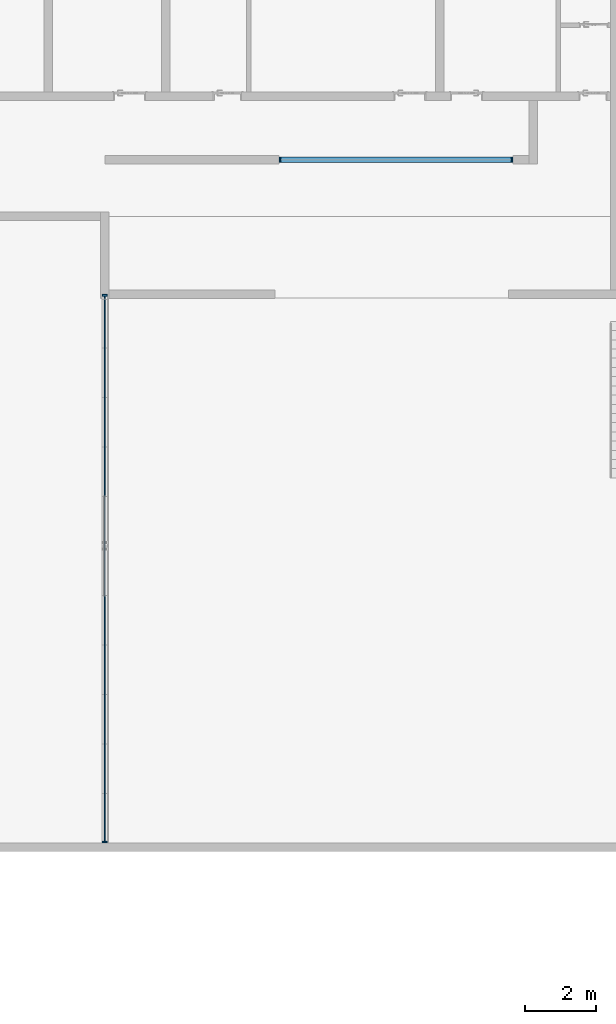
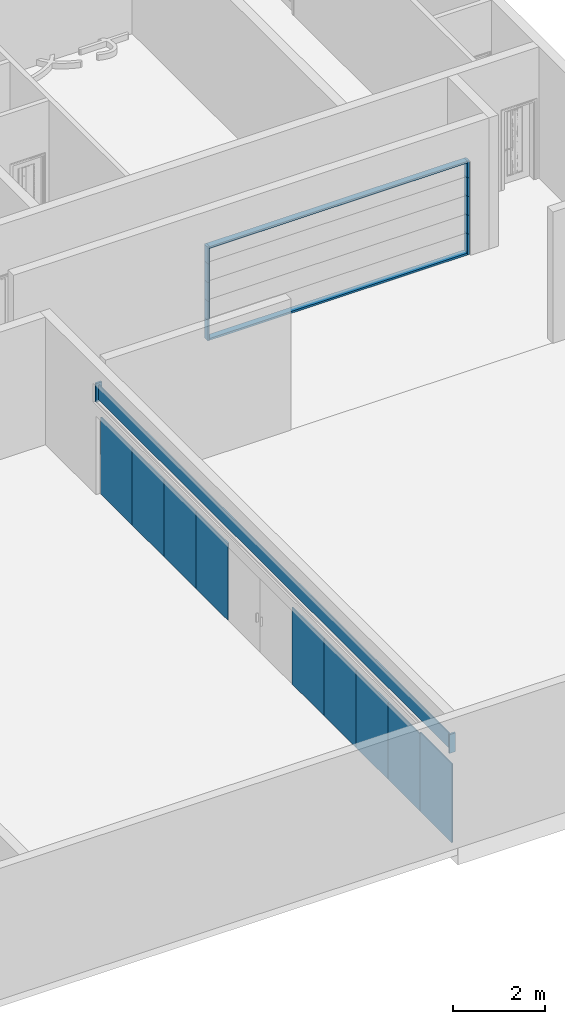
# One storey, part 3 of 24: 14 members, 10 plates, 3 elements without a shape of their own.
"""IFC2X3 building model written with IfcOpenShell, lengths in millimetres."""

from ifc_helpers import new_model, entity, si_unit, converted_unit, derived_unit, direction, frame, origin, origin_2d_with_axis, place, context, subcontext, project, spatial, rectangle, extrude, source, transform, mapped, material, layer, layer_set, layer_usage, type_object, type_shapes, element, aggregate, save


model = new_model("IFC2X3")

# Units and contexts
model_context = context("Model", 3, precision=0.01, world=origin(), true_north=direction((6.12303176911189e-17, 1.0)))
body_context = subcontext(model_context, "Body", "Model", "MODEL_VIEW")
ifc_project = project(units=[si_unit("LENGTHUNIT", "METRE", prefix="MILLI"), si_unit("AREAUNIT", "SQUARE_METRE"), si_unit("VOLUMEUNIT", "CUBIC_METRE"), converted_unit("PLANEANGLEUNIT", "DEGREE", entity("IfcRatioMeasure", 0.0174532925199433), si_unit("PLANEANGLEUNIT", "RADIAN"), dimensions=[0, 0, 0, 0, 0, 0, 0]), si_unit("MASSUNIT", "GRAM", prefix="KILO"), derived_unit("MASSDENSITYUNIT", [(si_unit("MASSUNIT", "GRAM", prefix="KILO"), 1), (si_unit("LENGTHUNIT", "METRE"), -3)]), si_unit("TIMEUNIT", "SECOND"), si_unit("FREQUENCYUNIT", "HERTZ"), si_unit("THERMODYNAMICTEMPERATUREUNIT", "DEGREE_CELSIUS"), derived_unit("THERMALTRANSMITTANCEUNIT", [(si_unit("MASSUNIT", "GRAM", prefix="KILO"), 1), (si_unit("THERMODYNAMICTEMPERATUREUNIT", "KELVIN"), -1), (si_unit("TIMEUNIT", "SECOND"), -3)]), derived_unit("VOLUMETRICFLOWRATEUNIT", [(si_unit("LENGTHUNIT", "METRE"), 3), (si_unit("TIMEUNIT", "SECOND"), -1)]), si_unit("ELECTRICCURRENTUNIT", "AMPERE"), si_unit("ELECTRICVOLTAGEUNIT", "VOLT"), si_unit("POWERUNIT", "WATT"), si_unit("FORCEUNIT", "NEWTON", prefix="KILO"), si_unit("ILLUMINANCEUNIT", "LUX"), si_unit("LUMINOUSFLUXUNIT", "LUMEN"), si_unit("LUMINOUSINTENSITYUNIT", "CANDELA"), derived_unit("USERDEFINED", [(si_unit("MASSUNIT", "GRAM", prefix="KILO"), -1), (si_unit("LENGTHUNIT", "METRE"), -2), (si_unit("TIMEUNIT", "SECOND"), 3), (si_unit("LUMINOUSFLUXUNIT", "LUMEN"), 1)]), derived_unit("LINEARVELOCITYUNIT", [(si_unit("LENGTHUNIT", "METRE"), 1), (si_unit("TIMEUNIT", "SECOND"), -1)]), si_unit("PRESSUREUNIT", "PASCAL"), derived_unit("USERDEFINED", [(si_unit("LENGTHUNIT", "METRE"), -2), (si_unit("MASSUNIT", "GRAM", prefix="KILO"), 1), (si_unit("TIMEUNIT", "SECOND"), -2)])], contexts=[model_context])

# Site, building, storey
site_placement = place(None, origin())
site = spatial("IfcSite", under=ifc_project, at=site_placement, Name="表面", CompositionType="ELEMENT")
building_placement = place(site_placement, origin())
building = spatial("IfcBuilding", under=site, at=building_placement, CompositionType="ELEMENT")
storey_placement = place(building_placement, frame((0.0, 0.0, -3500.0)))
storey = spatial("IfcBuildingStorey", under=building, at=storey_placement, Name="-1F", CompositionType="ELEMENT", Elevation=-3500.0)

# Curtain wall, members
curtain_wall_type_1 = type_object("IfcCurtainWallType", Name="幕墙:幕墙 1", PredefinedType="NOTDEFINED")
curtain_wall_1_placement = place(storey_placement, frame((0.0, 0.0, 3500.0)))
curtain_wall_1 = element("IfcCurtainWall", 1, at=curtain_wall_1_placement, inside=storey, type_object=curtain_wall_type_1, Name="幕墙:幕墙 1", ObjectType="幕墙:幕墙 1")
ifc_material_1 = material(Name="金属 - 铝")
member_type_1 = type_object("IfcMemberType", Name="50 x 150mm", PredefinedType="MEMBER")
shared_shape_1 = source(origin(), body_context, "Body", "SweptSolid", [
    extrude(rectangle(XDim=150.0, YDim=50.0, at=origin_2d_with_axis()), frame((-25.0, 0.0, -550.0), z_axis=(0.0, 0.0, 1.0), x_axis=(0.0, -1.0, 0.0)), (0.0, 0.0, 1.0), 550.0),
])
type_shapes(member_type_1, [shared_shape_1])
member_1_placement = place(storey_placement, frame((7889.75008735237, -10507.8459129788, 0.0), z_axis=(0.0, 0.0, -1.0), x_axis=(1.0, 0.0, 0.0)))
member_1 = element("IfcMember", 2, at=member_1_placement, type_object=member_type_1, material=ifc_material_1, Name="矩形竖梃:50 x 150mm", ObjectType="50 x 150mm", context=body_context, shape_type="MappedRepresentation", body=[
    mapped(shared_shape_1, transform((0.0, 0.0, 0.0), scale=1.0)),
])
member_type_2 = type_object("IfcMemberType", Name="50 x 150mm", PredefinedType="MEMBER")
shared_shape_2 = source(origin(), body_context, "Body", "SweptSolid", [
    extrude(rectangle(XDim=150.0, YDim=50.0, at=origin_2d_with_axis()), frame((-25.0, 0.0, -450.0), z_axis=(0.0, 0.0, 1.0), x_axis=(0.0, -1.0, 0.0)), (0.0, 0.0, 1.0), 450.000000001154),
])
type_shapes(member_type_2, [shared_shape_2])
member_2_placement = place(storey_placement, frame((1289.75008735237, -10507.8459129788, 2500.0), z_axis=(0.0, 0.0, 1.0), x_axis=(-1.0, 0.0, 0.0)))
member_2 = element("IfcMember", 3, at=member_2_placement, type_object=member_type_2, material=ifc_material_1, Name="矩形竖梃:50 x 150mm", ObjectType="50 x 150mm", context=body_context, shape_type="MappedRepresentation", body=[
    mapped(shared_shape_2, transform((0.0, 0.0, 0.0), scale=1.0)),
])
member_type_3 = type_object("IfcMemberType", Name="50 x 150mm", PredefinedType="MEMBER")
shared_shape_3 = source(origin(), body_context, "Body", "SweptSolid", [
    extrude(rectangle(XDim=150.0, YDim=50.0, at=origin_2d_with_axis()), frame((-25.0, 0.0, -500.0), z_axis=(0.0, 0.0, 1.0), x_axis=(0.0, -1.0, 0.0)), (0.0, 0.0, 1.0), 500.0),
])
type_shapes(member_type_3, [shared_shape_3])
member_3_placement = place(storey_placement, frame((7889.75008735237, -10507.8459129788, 550.0), z_axis=(0.0, 0.0, -1.0), x_axis=(1.0, 0.0, 0.0)))
member_3 = element("IfcMember", 4, at=member_3_placement, type_object=member_type_3, material=ifc_material_1, Name="矩形竖梃:50 x 150mm", ObjectType="50 x 150mm", context=body_context, shape_type="MappedRepresentation", body=[
    mapped(shared_shape_3, transform((0.0, 0.0, 0.0), scale=1.0)),
])
member_4_placement = place(storey_placement, frame((7889.75008735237, -10507.8459129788, 1050.0), z_axis=(0.0, 0.0, -1.0), x_axis=(1.0, 0.0, 0.0)))
member_4 = element("IfcMember", 5, at=member_4_placement, type_object=member_type_3, material=ifc_material_1, Name="矩形竖梃:50 x 150mm", ObjectType="50 x 150mm", context=body_context, shape_type="MappedRepresentation", body=[
    mapped(shared_shape_3, transform((0.0, 0.0, 0.0), scale=1.0)),
])
member_5_placement = place(storey_placement, frame((7889.75008735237, -10507.8459129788, 1550.0), z_axis=(0.0, 0.0, -1.0), x_axis=(1.0, 0.0, 0.0)))
member_5 = element("IfcMember", 6, at=member_5_placement, type_object=member_type_3, material=ifc_material_1, Name="矩形竖梃:50 x 150mm", ObjectType="50 x 150mm", context=body_context, shape_type="MappedRepresentation", body=[
    mapped(shared_shape_3, transform((0.0, 0.0, 0.0), scale=1.0)),
])
member_type_4 = type_object("IfcMemberType", Name="50 x 150mm", PredefinedType="MEMBER")
shared_shape_4 = source(origin(), body_context, "Body", "SweptSolid", [
    extrude(rectangle(XDim=150.0, YDim=50.0, at=origin_2d_with_axis()), frame((-25.0, 0.0, -550.0), z_axis=(0.0, 0.0, 1.0), x_axis=(0.0, -1.0, 0.0)), (0.0, 0.0, 1.0), 550.0),
])
type_shapes(member_type_4, [shared_shape_4])
member_6_placement = place(storey_placement, frame((1289.75008735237, -10507.8459129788, 550.0), z_axis=(0.0, 0.0, 1.0), x_axis=(-1.0, 0.0, 0.0)))
member_6 = element("IfcMember", 7, at=member_6_placement, type_object=member_type_4, material=ifc_material_1, Name="矩形竖梃:50 x 150mm", ObjectType="50 x 150mm", context=body_context, shape_type="MappedRepresentation", body=[
    mapped(shared_shape_4, transform((0.0, 0.0, 0.0), scale=1.0)),
])
member_type_5 = type_object("IfcMemberType", Name="50 x 150mm", PredefinedType="MEMBER")
shared_shape_5 = source(origin(), body_context, "Body", "SweptSolid", [
    extrude(rectangle(XDim=150.0, YDim=50.0, at=origin_2d_with_axis()), frame((-25.0, 0.0, -500.0), z_axis=(0.0, 0.0, 1.0), x_axis=(0.0, -1.0, 0.0)), (0.0, 0.0, 1.0), 500.0),
])
type_shapes(member_type_5, [shared_shape_5])
member_7_placement = place(storey_placement, frame((1289.75008735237, -10507.8459129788, 1050.0), z_axis=(0.0, 0.0, 1.0), x_axis=(-1.0, 0.0, 0.0)))
member_7 = element("IfcMember", 8, at=member_7_placement, type_object=member_type_5, material=ifc_material_1, Name="矩形竖梃:50 x 150mm", ObjectType="50 x 150mm", context=body_context, shape_type="MappedRepresentation", body=[
    mapped(shared_shape_5, transform((0.0, 0.0, 0.0), scale=1.0)),
])
member_8_placement = place(storey_placement, frame((1289.75008735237, -10507.8459129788, 1550.0), z_axis=(0.0, 0.0, 1.0), x_axis=(-1.0, 0.0, 0.0)))
member_8 = element("IfcMember", 9, at=member_8_placement, type_object=member_type_5, material=ifc_material_1, Name="矩形竖梃:50 x 150mm", ObjectType="50 x 150mm", context=body_context, shape_type="MappedRepresentation", body=[
    mapped(shared_shape_5, transform((0.0, 0.0, 0.0), scale=1.0)),
])
member_9_placement = place(storey_placement, frame((1289.75008735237, -10507.8459129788, 2050.0), z_axis=(0.0, 0.0, 1.0), x_axis=(-1.0, 0.0, 0.0)))
member_9 = element("IfcMember", 10, at=member_9_placement, type_object=member_type_5, material=ifc_material_1, Name="矩形竖梃:50 x 150mm", ObjectType="50 x 150mm", context=body_context, shape_type="MappedRepresentation", body=[
    mapped(shared_shape_5, transform((0.0, 0.0, 0.0), scale=1.0)),
])
member_type_6 = type_object("IfcMemberType", Name="50 x 150mm", PredefinedType="MEMBER")
shared_shape_6 = source(origin(), body_context, "Body", "SweptSolid", [
    extrude(rectangle(XDim=150.0, YDim=50.0, at=origin_2d_with_axis()), frame((-25.0, 0.0, -450.0), z_axis=(0.0, 0.0, 1.0), x_axis=(0.0, -1.0, 0.0)), (0.0, 0.0, 1.0), 450.000000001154),
])
type_shapes(member_type_6, [shared_shape_6])
member_10_placement = place(storey_placement, frame((7889.75008735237, -10507.8459129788, 2050.0), z_axis=(0.0, 0.0, -1.0), x_axis=(1.0, 0.0, 0.0)))
member_10 = element("IfcMember", 11, at=member_10_placement, type_object=member_type_6, material=ifc_material_1, Name="矩形竖梃:50 x 150mm", ObjectType="50 x 150mm", context=body_context, shape_type="MappedRepresentation", body=[
    mapped(shared_shape_6, transform((0.0, 0.0, 0.0), scale=1.0)),
])
member_type_7 = type_object("IfcMemberType", Name="50 x 150mm", PredefinedType="MEMBER")
shared_shape_7 = source(origin(), body_context, "Body", "SweptSolid", [
    extrude(rectangle(XDim=150.0, YDim=50.0, at=origin_2d_with_axis()), frame((-25.0, 0.0, -6500.0), z_axis=(0.0, 0.0, 1.0), x_axis=(0.0, -1.0, 0.0)), (0.0, 0.0, 1.0), 6500.0),
])
type_shapes(member_type_7, [shared_shape_7])
member_11_placement = place(storey_placement, frame((7839.75008735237, -10507.8459129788, 2500.0), z_axis=(1.0, 0.0, 0.0), x_axis=(0.0, 0.0, 1.0)))
member_11 = element("IfcMember", 12, at=member_11_placement, type_object=member_type_7, material=ifc_material_1, Name="矩形竖梃:50 x 150mm", ObjectType="50 x 150mm", context=body_context, shape_type="MappedRepresentation", body=[
    mapped(shared_shape_7, transform((0.0, 0.0, 0.0), scale=1.0)),
])
member_type_8 = type_object("IfcMemberType", Name="50 x 150mm", PredefinedType="MEMBER")
shared_shape_8 = source(origin(), body_context, "Body", "SweptSolid", [
    extrude(rectangle(XDim=150.0, YDim=50.0, at=origin_2d_with_axis()), frame((-25.0, 0.0, -6500.0), z_axis=(0.0, 0.0, 1.0), x_axis=(0.0, -1.0, 0.0)), (0.0, 0.0, 1.0), 6500.0),
])
type_shapes(member_type_8, [shared_shape_8])
member_12_placement = place(storey_placement, frame((1339.75008735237, -10507.8459129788, 0.0), z_axis=(-1.0, 0.0, 0.0), x_axis=(0.0, 0.0, -1.0)))
member_12 = element("IfcMember", 13, at=member_12_placement, type_object=member_type_8, material=ifc_material_1, Name="矩形竖梃:50 x 150mm", ObjectType="50 x 150mm", context=body_context, shape_type="MappedRepresentation", body=[
    mapped(shared_shape_8, transform((0.0, 0.0, 0.0), scale=1.0)),
])
aggregate(curtain_wall_1, [member_11, member_12, member_1, member_2, member_3, member_6, member_7, member_8, member_9, member_4, member_5, member_10])

curtain_wall_2_placement = place(storey_placement, frame((0.0, 0.0, 3500.0)))
curtain_wall_2 = element("IfcCurtainWall", 14, at=curtain_wall_2_placement, inside=storey, type_object=curtain_wall_type_1, Name="幕墙:幕墙 1", ObjectType="幕墙:幕墙 1")
member_type_9 = type_object("IfcMemberType", Name="50 x 150mm", PredefinedType="MEMBER")
shared_shape_9 = source(origin(), body_context, "Body", "SweptSolid", [
    extrude(rectangle(XDim=150.0, YDim=50.0, at=origin_2d_with_axis()), frame((-25.0, 0.0, -500.0), z_axis=(0.0, 0.0, 1.0), x_axis=(0.0, -1.0, 0.0)), (0.0, 0.0, 1.0), 500.0),
])
type_shapes(member_type_9, [shared_shape_9])
member_13_placement = place(storey_placement, frame((-3630.24991264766, -29787.8459129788, 2400.0), z_axis=(0.0, 0.0, -1.0), x_axis=(0.0, -1.0, 0.0)))
member_13 = element("IfcMember", 15, at=member_13_placement, type_object=member_type_9, material=ifc_material_1, Name="矩形竖梃:50 x 150mm", ObjectType="50 x 150mm", context=body_context, shape_type="MappedRepresentation", body=[
    mapped(shared_shape_9, transform((0.0, 0.0, 0.0), scale=1.0)),
])
member_type_10 = type_object("IfcMemberType", Name="50 x 150mm", PredefinedType="MEMBER")
shared_shape_10 = source(origin(), body_context, "Body", "SweptSolid", [
    extrude(rectangle(XDim=150.0, YDim=50.0, at=origin_2d_with_axis()), frame((-25.0, 0.0, -500.0), z_axis=(0.0, 0.0, 1.0), x_axis=(0.0, -1.0, 0.0)), (0.0, 0.0, 1.0), 500.0),
])
type_shapes(member_type_10, [shared_shape_10])
member_14_placement = place(storey_placement, frame((-3630.24991264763, -14307.8459129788, 2900.0), z_axis=(0.0, 0.0, 1.0), x_axis=(0.0, 1.0, 0.0)))
member_14 = element("IfcMember", 16, at=member_14_placement, type_object=member_type_10, material=ifc_material_1, Name="矩形竖梃:50 x 150mm", ObjectType="50 x 150mm", context=body_context, shape_type="MappedRepresentation", body=[
    mapped(shared_shape_10, transform((0.0, 0.0, 0.0), scale=1.0)),
])

# Curtain wall, plates
curtain_wall_type_2 = type_object("IfcCurtainWallType", Name="幕墙:店面", PredefinedType="NOTDEFINED")
curtain_wall_3_placement = place(storey_placement, frame((0.0, 0.0, 3500.0)))
curtain_wall_3 = element("IfcCurtainWall", 17, at=curtain_wall_3_placement, inside=storey, type_object=curtain_wall_type_2, Name="幕墙:店面", ObjectType="幕墙:店面")
ifc_material_2 = material(Name="玻璃")
plate_type_1 = type_object("IfcPlateType", Name="玻璃嵌板", PredefinedType="CURTAIN_PANEL", material=ifc_material_2)
shared_shape_11 = source(origin(), body_context, "Body", "SweptSolid", [
    extrude(rectangle(XDim=30.0, YDim=1366.36363636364, at=origin_2d_with_axis()), frame((0.0, 0.0, 0.0), z_axis=(0.0, 0.0, 1.0), x_axis=(0.0, 1.0, 0.0)), (0.0, 0.0, 1.0), 2050.0),
])
type_shapes(plate_type_1, [shared_shape_11])
plate_1_placement = place(curtain_wall_3_placement, frame((-3630.24991264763, -15141.0277311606, -3500.0), z_axis=(0.0, 0.0, 1.0), x_axis=(0.0, -1.0, 0.0)))
plate_1 = element("IfcPlate", 18, at=plate_1_placement, type_object=plate_type_1, material=ifc_material_2, Name="玻璃嵌板:玻璃嵌板", ObjectType="玻璃嵌板", context=body_context, shape_type="MappedRepresentation", body=[
    mapped(shared_shape_11, transform((0.0, 0.0, 0.0), scale=1.0)),
])
plate_type_2 = type_object("IfcPlateType", Name="玻璃嵌板", PredefinedType="CURTAIN_PANEL", material=ifc_material_2)
shared_shape_12 = source(origin(), body_context, "Body", "SweptSolid", [
    extrude(rectangle(XDim=30.0, YDim=1396.36363636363, at=origin_2d_with_axis()), frame((0.0, 0.0, 0.0), z_axis=(0.0, 0.0, 1.0), x_axis=(0.0, 1.0, 0.0)), (0.0, 0.0, 1.0), 2050.0),
])
type_shapes(plate_type_2, [shared_shape_12])
plate_2_placement = place(curtain_wall_3_placement, frame((-3630.24991264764, -16522.3913675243, -3500.0), z_axis=(0.0, 0.0, 1.0), x_axis=(0.0, -1.0, 0.0)))
plate_2 = element("IfcPlate", 19, at=plate_2_placement, type_object=plate_type_2, material=ifc_material_2, Name="玻璃嵌板:玻璃嵌板", ObjectType="玻璃嵌板", context=body_context, shape_type="MappedRepresentation", body=[
    mapped(shared_shape_12, transform((0.0, 0.0, 0.0), scale=1.0)),
])
plate_3_placement = place(curtain_wall_3_placement, frame((-3630.24991264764, -17918.7550038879, -3500.0), z_axis=(0.0, 0.0, 1.0), x_axis=(0.0, -1.0, 0.0)))
plate_3 = element("IfcPlate", 20, at=plate_3_placement, type_object=plate_type_2, material=ifc_material_2, Name="玻璃嵌板:玻璃嵌板", ObjectType="玻璃嵌板", context=body_context, shape_type="MappedRepresentation", body=[
    mapped(shared_shape_12, transform((0.0, 0.0, 0.0), scale=1.0)),
])
plate_4_placement = place(curtain_wall_3_placement, frame((-3630.24991264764, -19315.1186402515, -3500.0), z_axis=(0.0, 0.0, 1.0), x_axis=(0.0, -1.0, 0.0)))
plate_4 = element("IfcPlate", 21, at=plate_4_placement, type_object=plate_type_2, material=ifc_material_2, Name="玻璃嵌板:玻璃嵌板", ObjectType="玻璃嵌板", context=body_context, shape_type="MappedRepresentation", body=[
    mapped(shared_shape_12, transform((0.0, 0.0, 0.0), scale=1.0)),
])
plate_5_placement = place(curtain_wall_3_placement, frame((-3630.24991264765, -23504.2095493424, -3500.0), z_axis=(0.0, 0.0, 1.0), x_axis=(0.0, -1.0, 0.0)))
plate_5 = element("IfcPlate", 22, at=plate_5_placement, type_object=plate_type_2, material=ifc_material_2, Name="玻璃嵌板:玻璃嵌板", ObjectType="玻璃嵌板", context=body_context, shape_type="MappedRepresentation", body=[
    mapped(shared_shape_12, transform((0.0, 0.0, 0.0), scale=1.0)),
])
plate_6_placement = place(curtain_wall_3_placement, frame((-3630.24991264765, -24900.5731857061, -3500.0), z_axis=(0.0, 0.0, 1.0), x_axis=(0.0, -1.0, 0.0)))
plate_6 = element("IfcPlate", 23, at=plate_6_placement, type_object=plate_type_2, material=ifc_material_2, Name="玻璃嵌板:玻璃嵌板", ObjectType="玻璃嵌板", context=body_context, shape_type="MappedRepresentation", body=[
    mapped(shared_shape_12, transform((0.0, 0.0, 0.0), scale=1.0)),
])
plate_7_placement = place(curtain_wall_3_placement, frame((-3630.24991264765, -26296.9368220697, -3500.0), z_axis=(0.0, 0.0, 1.0), x_axis=(0.0, -1.0, 0.0)))
plate_7 = element("IfcPlate", 24, at=plate_7_placement, type_object=plate_type_2, material=ifc_material_2, Name="玻璃嵌板:玻璃嵌板", ObjectType="玻璃嵌板", context=body_context, shape_type="MappedRepresentation", body=[
    mapped(shared_shape_12, transform((0.0, 0.0, 0.0), scale=1.0)),
])
plate_8_placement = place(curtain_wall_3_placement, frame((-3630.24991264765, -27693.3004584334, -3500.0), z_axis=(0.0, 0.0, 1.0), x_axis=(0.0, -1.0, 0.0)))
plate_8 = element("IfcPlate", 25, at=plate_8_placement, type_object=plate_type_2, material=ifc_material_2, Name="玻璃嵌板:玻璃嵌板", ObjectType="玻璃嵌板", context=body_context, shape_type="MappedRepresentation", body=[
    mapped(shared_shape_12, transform((0.0, 0.0, 0.0), scale=1.0)),
])
plate_type_3 = type_object("IfcPlateType", Name="玻璃嵌板", PredefinedType="CURTAIN_PANEL", material=ifc_material_2)
shared_shape_13 = source(origin(), body_context, "Body", "SweptSolid", [
    extrude(rectangle(XDim=30.0, YDim=1396.36363636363, at=origin_2d_with_axis()), frame((0.0, 0.0, 0.0), z_axis=(0.0, 0.0, 1.0), x_axis=(0.0, 1.0, 0.0)), (0.0, 0.0, 1.0), 2100.0),
])
type_shapes(plate_type_3, [shared_shape_13])
plate_9_placement = place(curtain_wall_3_placement, frame((-3630.24991264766, -29089.664094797, -3500.0), z_axis=(0.0, 0.0, 1.0), x_axis=(0.0, -1.0, 0.0)))
plate_9 = element("IfcPlate", 26, at=plate_9_placement, type_object=plate_type_3, material=ifc_material_2, Name="玻璃嵌板:玻璃嵌板", ObjectType="玻璃嵌板", context=body_context, shape_type="MappedRepresentation", body=[
    mapped(shared_shape_13, transform((0.0, 0.0, 0.0), scale=1.0)),
])
aggregate(curtain_wall_3, [plate_1, plate_2, plate_3, plate_4, plate_5, plate_6, plate_7, plate_8, plate_9])

# Plate
ifc_material_3 = material(Name="<Unnamed>")
ifc_layer = layer(ifc_material_3, 30.0)
ifc_layer_set = layer_set([ifc_layer], Name="幕墙系统:1450 x 2100mm")
ifc_layer_usage = layer_usage(ifc_layer_set, "AXIS3", "POSITIVE", 0.0)
plate_type_4 = type_object("IfcPlateType", Name="玻璃", PredefinedType="CURTAIN_PANEL", material=ifc_layer_set)
shared_shape_14 = source(origin(), body_context, "Body", "SweptSolid", [
    extrude(rectangle(XDim=30.0, YDim=15380.0, at=origin_2d_with_axis()), frame((0.0, 0.0, 0.0), z_axis=(0.0, 0.0, 1.0), x_axis=(0.0, 1.0, 0.0)), (0.0, 0.0, 1.0), 400.0),
])
type_shapes(plate_type_4, [shared_shape_14])
plate_10_placement = place(curtain_wall_2_placement, frame((-3630.24991264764, -22047.8459129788, -1050.0), z_axis=(0.0, 0.0, 1.0), x_axis=(0.0, -1.0, 0.0)))
plate_10 = element("IfcPlate", 27, at=plate_10_placement, type_object=plate_type_4, material=ifc_layer_usage, Name="系统嵌板:玻璃", ObjectType="玻璃", context=body_context, shape_type="MappedRepresentation", body=[
    mapped(shared_shape_14, transform((0.0, 0.0, 0.0), scale=1.0)),
])

aggregate(curtain_wall_2, [plate_10, member_13, member_14])

save(model, "model.ifc")
